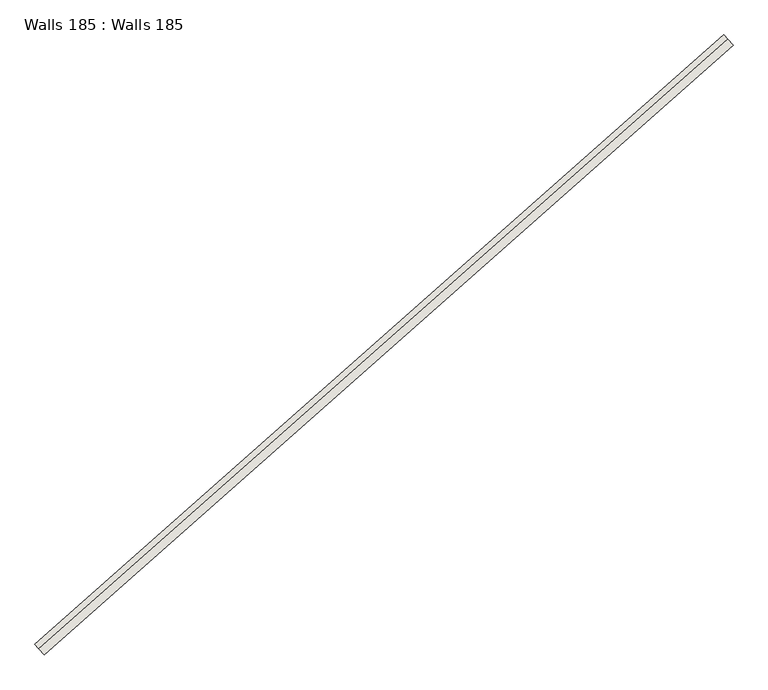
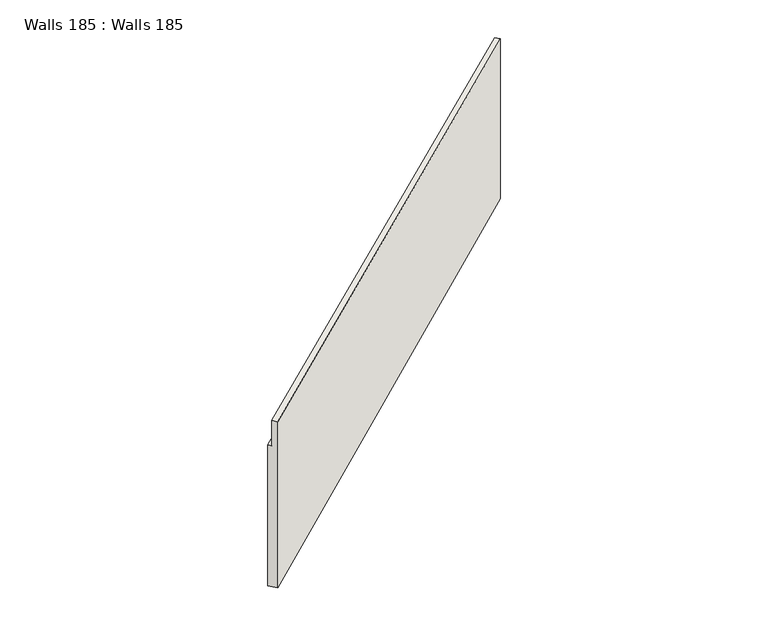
"""IFC4 building model written with IfcOpenShell, lengths in millimetres: wall geometry, Walls 185 : Walls 185."""

from ifc_helpers import new_model, si_unit, origin, place, context, project, spatial, faceted_brep, source, transform, mapped, element, save


def walls_185_walls_185_794b23db(model_context):
    return source(origin(), model_context, "Body", "Brep", [
        faceted_brep([(327563.3548403, 241644.3239945, 650620.0505269), (327430.7926419, 241794.0813434, 650620.0505269), (327430.7926419, 241794.0813434, 649620.0505269), (327331.3709931, 241906.3993551, 649620.0505269), (327331.3709931, 241906.3993551, 644040.0505269), (327563.3548403, 241644.3239945, 644040.0505269), (344630.5368285, 256751.8508136, 650669.5481107), (344630.5368285, 256751.8508136, 644339.5481107), (344398.5529813, 257013.9261742, 644339.5481107), (344398.5529813, 257013.9261742, 649669.5481107), (344497.9746301, 256901.6081625, 649669.5481107), (344497.9746301, 256901.6081625, 650669.5481107)], [[[0, 1, 2, 3, 4, 5]], [[6, 7, 8, 9, 10, 11]], [[6, 11, 1, 0]], [[11, 10, 2, 1]], [[10, 9, 3, 2]], [[9, 8, 4, 3]], [[8, 7, 5, 4]], [[7, 6, 0, 5]]]),
    ])


if __name__ == "__main__":
    model = new_model("IFC4")
    model_context = context("Model", 3, world=origin())
    ifc_project = project(units=[si_unit("LENGTHUNIT", "METRE", prefix="MILLI")], contexts=[model_context])
    site = spatial("IfcSite", under=ifc_project)
    building = spatial("IfcBuilding", under=site)
    placement = place(None, origin())
    walls_185_walls_185_shape = walls_185_walls_185_794b23db(model_context)
    element("IfcWall", 1, ObjectType="Walls 185 : Walls 185", at=placement, inside=building, context=model_context, shape_type="MappedRepresentation", body=[
        mapped(walls_185_walls_185_shape, transform((0.0, 0.0, 0.0), x_axis=(1.0, 0.0, 0.0), y_axis=(0.0, 1.0, 0.0), z_axis=(0.0, 0.0, 1.0))),
    ])
    save(model, "model.ifc")
